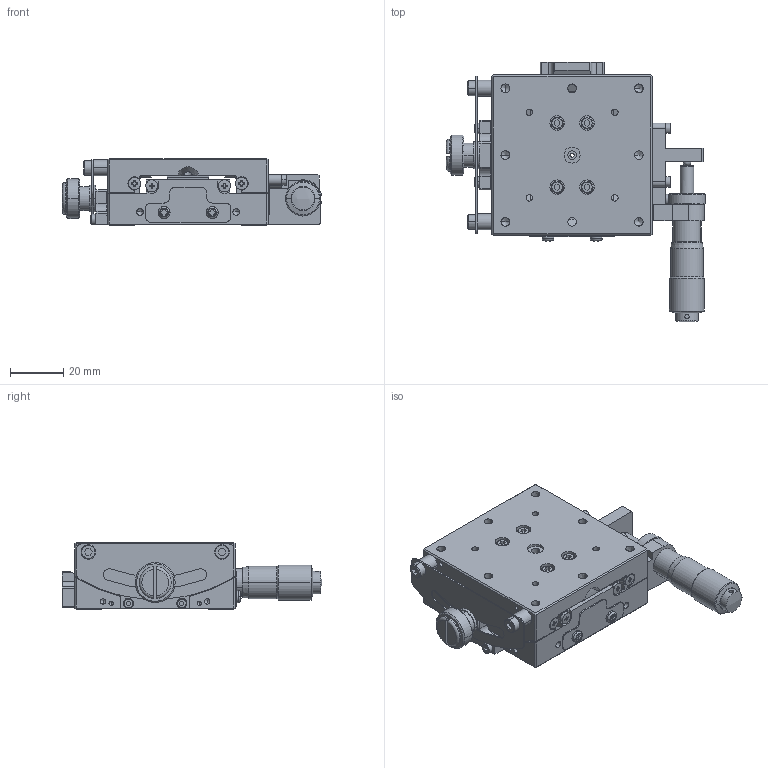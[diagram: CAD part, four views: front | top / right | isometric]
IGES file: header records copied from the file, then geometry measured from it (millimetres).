
Global section: file name: No Iges File Name specified; native system: AutoDesk Inventor R12.0; preprocessor: AutoDesk Inventor Iges Exporter R12.0; date: 20140421.091235; units: millimetre
Bounding box: 96.93 x 97.17 x 25 mm (x, y, z)
Volume: 77593.8 mm3; surface area: 39541.6 mm2
Topology: 2 solids, 47 shells, 1306 faces, 3210 edges, 2006 vertices
Faces by surface type: plane 580, bspline 363, cylinder 174, cone 96, revolution 71, sphere 16, torus 6
